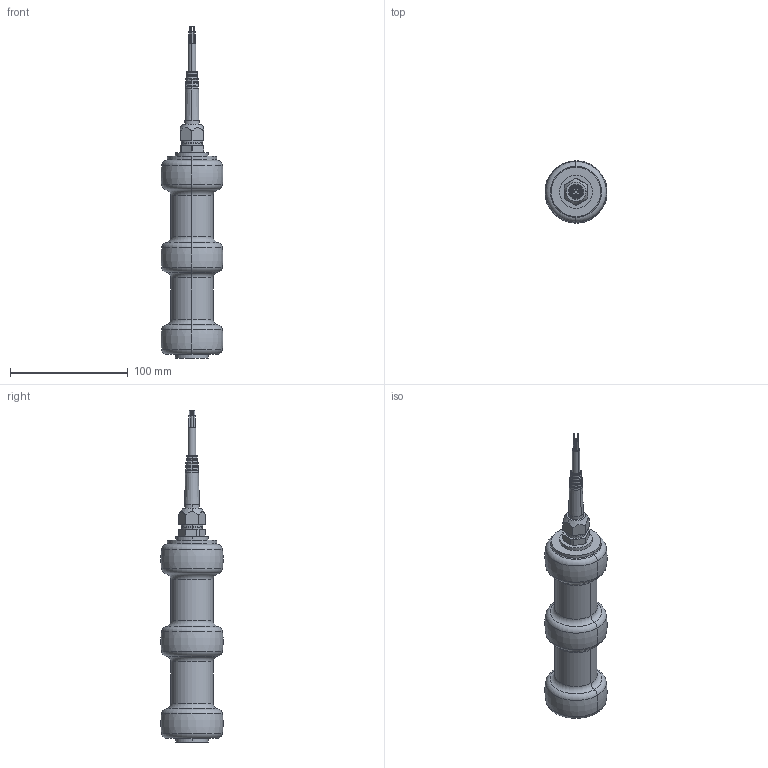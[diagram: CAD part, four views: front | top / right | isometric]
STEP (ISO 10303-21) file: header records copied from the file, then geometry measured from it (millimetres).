
FILE_DESCRIPTION (( 'STEP AP214' ), '1' );
FILE_NAME ('KOSD-5 20-50-100 kN Load Cell.STEP', '2021-04-20T12:00:43', ( '' ), ( '' ), 'SwSTEP 2.0', 'SolidWorks 2021', '' );
FILE_SCHEMA (( 'AUTOMOTIVE_DESIGN' ));
Length unit declared in the file: millimetre
Products named in the file (7): M26 lock med mejselspår; ~~PART1; Kabel  70 mm; M26x1.5 - Pg9 - 6369829; Element KOSD-5 100 kN ; Pg9 - 1009.52 6_2_14; KOSD-5 20-50-100 kN Load Cell
Assembly tree (6 placements, depth 3):
  KOSD-5 20-50-100 kN Load Cell
    Element KOSD-5 100 kN 
    M26 lock med mejselspår
      ~~PART1
    Kabel  70 mm
    M26x1.5 - Pg9 - 6369829
    Pg9 - 1009.52 6_2_14
Bounding box: 52.5 x 52.85 x 282 mm (x, y, z)
Volume: 275622.4 mm3; surface area: 42900.3 mm2
Topology: 5 solids, 8 shells, 249 faces, 540 edges, 330 vertices
Faces by surface type: cylinder 82, plane 54, cone 45, torus 42, bspline 26
Entity records: 8430 total; most frequent: CARTESIAN_POINT 1815, DIRECTION 1315, ORIENTED_EDGE 1080, AXIS2_PLACEMENT_3D 576, EDGE_CURVE 540, CIRCLE 343, VERTEX_POINT 330, EDGE_LOOP 282
